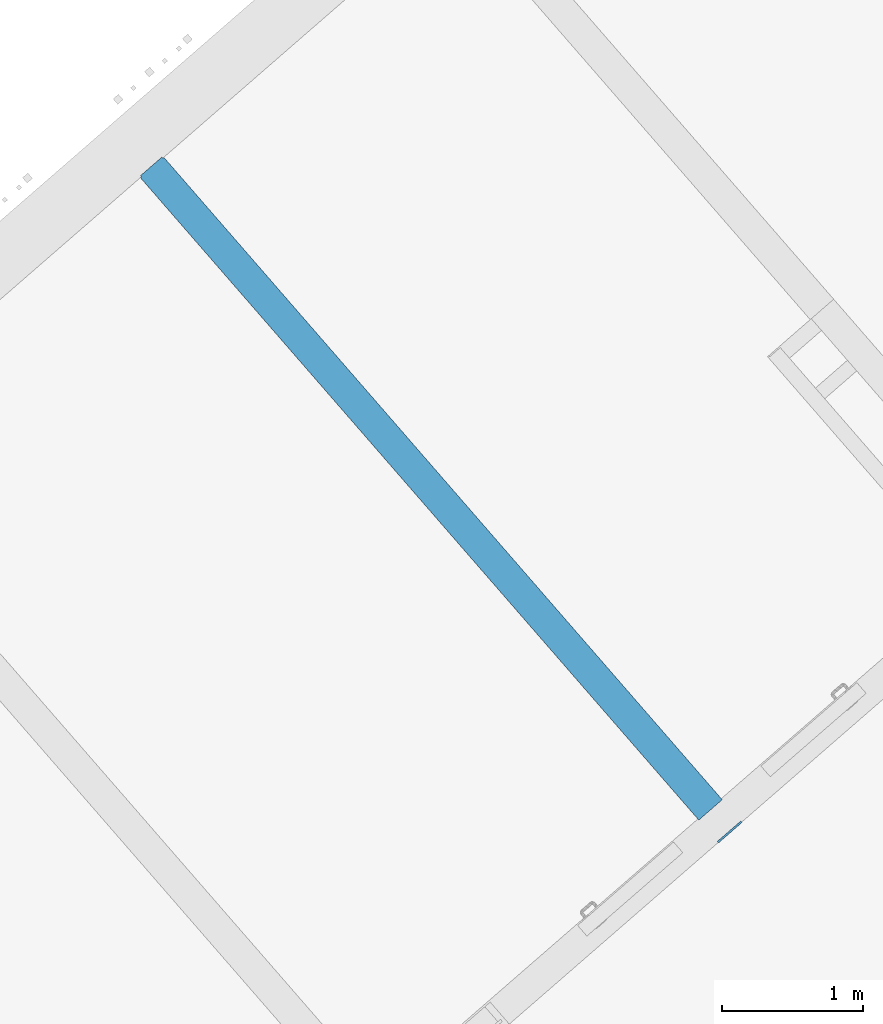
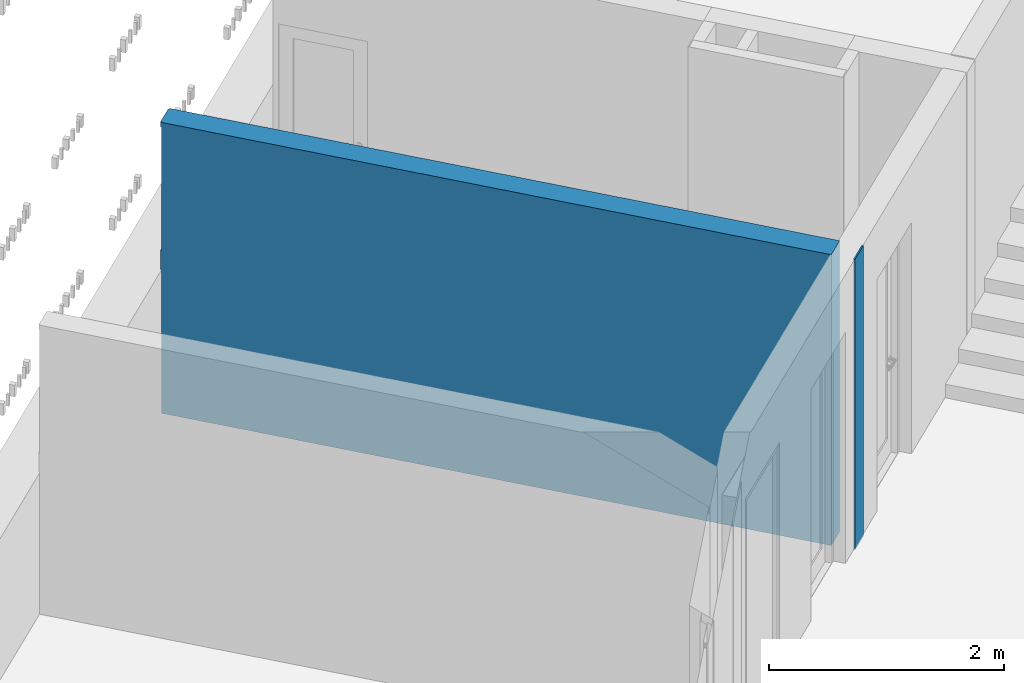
# One storey, part 52 of 124: 1 wall.
"""IFC2X3 building model written with IfcOpenShell, lengths in millimetres."""

from ifc_helpers import new_model, entity, si_unit, converted_unit, derived_unit, money_unit, direction, frame, origin_with_axes, place, context, subcontext, project, spatial, faceted_brep, material, material_list, type_object, element, save


model = new_model("IFC2X3")

# Units and contexts
model_context = context("Model", 3, precision=1e-05, world=origin_with_axes(), true_north=direction((0.0, 1.0)))
body_context = subcontext(model_context, "Body", "Model", "MODEL_VIEW")
ifc_project = project(units=[si_unit("LENGTHUNIT", "METRE", prefix="MILLI"), si_unit("AREAUNIT", "SQUARE_METRE"), si_unit("VOLUMEUNIT", "CUBIC_METRE"), converted_unit("PLANEANGLEUNIT", "DEGREE", entity("IfcPlaneAngleMeasure", 0.0174532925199), si_unit("PLANEANGLEUNIT", "RADIAN"), dimensions=[0, 0, 0, 0, 0, 0, 0]), si_unit("SOLIDANGLEUNIT", "STERADIAN"), money_unit("EUR"), converted_unit("TIMEUNIT", "Year", entity("IfcTimeMeasure", 31556926.0), si_unit("TIMEUNIT", "SECOND"), dimensions=[0, 0, 1, 0, 0, 0, 0]), si_unit("MASSUNIT", "GRAM", prefix="KILO"), si_unit("THERMODYNAMICTEMPERATUREUNIT", "DEGREE_CELSIUS"), si_unit("LUMINOUSINTENSITYUNIT", "LUMEN"), si_unit("ENERGYUNIT", "JOULE", prefix="MEGA"), derived_unit("THERMALCONDUCTANCEUNIT", [(si_unit("POWERUNIT", "WATT"), 1), (si_unit("LENGTHUNIT", "METRE"), -1), (si_unit("THERMODYNAMICTEMPERATUREUNIT", "KELVIN"), -1)]), derived_unit("SPECIFICHEATCAPACITYUNIT", [(si_unit("ENERGYUNIT", "JOULE"), 1), (si_unit("MASSUNIT", "GRAM", prefix="KILO"), -1), (si_unit("THERMODYNAMICTEMPERATUREUNIT", "KELVIN"), -1)]), derived_unit("MASSDENSITYUNIT", [(si_unit("MASSUNIT", "GRAM", prefix="KILO"), 1), (si_unit("VOLUMEUNIT", "CUBIC_METRE"), -1)])], contexts=[model_context])

# Site, building, storey
site_placement = place(None, origin_with_axes())
site = spatial("IfcSite", under=ifc_project, at=site_placement, Name="Site", CompositionType="ELEMENT")
building_placement = place(site_placement, origin_with_axes())
building = spatial("IfcBuilding", under=site, at=building_placement, Name="Building", CompositionType="ELEMENT")
storey_placement = place(building_placement, frame((0.0, 0.0, -1615.0), z_axis=(0.0, 0.0, 1.0), x_axis=(1.0, 0.0, 0.0)))
storey = spatial("IfcBuildingStorey", under=building, at=storey_placement, Name="0  korrus", CompositionType="ELEMENT", Elevation=-1615.0)

# Wall
ifc_material_1 = material(Name="Krohv - Lubjakivi")
ifc_material_2 = material(Name="Müüriplokk - Konstuktsioon")
ifc_material_list = material_list([ifc_material_1, ifc_material_1, ifc_material_2, ifc_material_2, ifc_material_1, ifc_material_1])
wall_type = type_object("IfcWallType", Name="SS-01", PredefinedType="NOTDEFINED")
wall_placement = place(storey_placement, frame((154230.366478, 95147.0823493, -20.0), z_axis=(0.0, 0.0, 1.0), x_axis=(-0.65605902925, 0.754709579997, 0.0)))
element("IfcWall", 1, at=wall_placement, inside=storey, type_object=wall_type, material=ifc_material_list, Name="SS-01", context=body_context, shape_type="Brep", body=[
    faceted_brep([(13.5628937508, -10.000000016, 0.0), (13.5628937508, -10.0, 3020.0), (0.0, -9.99999999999, 3020.0), (0.0, -9.99999999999, 0.0), (13.5628937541, 0.0, 3020.0), (13.5628937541, -2.13731254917e-08, 0.0), (0.0, 0.0, 3020.0), (0.0, 0.0, 0.0)], [[[0, 1, 2, 3]], [[4, 1, 0, 5]], [[1, 4, 6, 2]], [[7, 3, 2, 6]], [[5, 0, 3, 7]], [[4, 5, 7, 6]]]),
    faceted_brep([(6240.00583256, -9.99999055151, 2965.0), (6240.00583256, -10.0, 3020.0), (213.562893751, -10.0, 3019.99999996), (213.562893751, -10.0000002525, 0.0), (6240.0058324, -10.0000073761, 0.0), (6240.00583275, -10.0000073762, 1485.0), (6240.00583275, -9.99999475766, 1635.0), (6239.96516894, -9.99999055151, 1635.0), (6239.96516894, -9.99999055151, 2965.0), (6240.00583256, 0.0, 3020.0), (6240.00583256, -9.24558207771e-08, 2965.0), (213.562893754, 0.0, 3019.99999996), (213.562893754, -3.36598304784e-07, 0.0), (6240.0058324, -9.83484937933e-06, 0.0), (6240.00583276, -2.52805421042e-06, 1635.0), (6240.00583276, -9.83484937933e-06, 1485.0), (6239.96519158, -9.24558207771e-08, 1635.0), (6239.96519158, -9.24558207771e-08, 2965.0)], [[[0, 1, 2, 3, 4, 5, 6, 7, 8]], [[9, 1, 0, 10]], [[1, 9, 11, 2]], [[3, 2, 11, 12]], [[12, 13, 4, 3]], [[14, 6, 5, 4, 13, 15]], [[7, 6, 14, 16]], [[8, 7, 16, 17]], [[10, 0, 8, 17]], [[9, 10, 17, 16, 14, 15, 13, 12, 11]]]),
    faceted_brep([(13.5628936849, -210.000000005, 0.0), (13.5628936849, -210.0, 3020.0), (0.0, -210.0, 3020.0), (0.0, -210.0, 0.0), (13.5628937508, -10.0, 3020.0), (13.5628937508, -10.000000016, 0.0), (0.0, -9.99999999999, 3020.0), (0.0, -9.99999999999, 0.0)], [[[0, 1, 2, 3]], [[4, 1, 0, 5]], [[1, 4, 6, 2]], [[7, 3, 2, 6]], [[5, 0, 3, 7]], [[4, 5, 7, 6]]]),
    faceted_brep([(6250.00583498, -209.999990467, 2965.0), (6250.00583495, -210.0, 3020.0), (213.562893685, -210.0, 3019.99999996), (213.562893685, -210.000000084, 0.0), (6240.0058324, -210.000002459, 0.0), (6240.0058324, -210.000002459, 1485.0), (6250.0058327, -210.000002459, 1485.0), (6250.0058327, -209.999993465, 1635.0), (6249.96471608, -209.999990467, 1635.0), (6249.96471608, -209.999990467, 1685.00000054), (6240.0058324, -209.999990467, 1685.00000054), (6240.0058324, -209.999990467, 2965.0), (6250.005835, -9.99999999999, 3020.0), (6250.00583504, -9.99999055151, 2965.0), (213.562893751, -10.0, 3019.99999996), (213.562893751, -10.0000002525, 0.0), (6240.0058324, -10.0000073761, 0.0), (6240.0058324, -10.0000073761, 1485.0), (6250.00583275, -10.0000073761, 1485.0), (6250.00583275, -9.99999475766, 1635.0), (6249.96516894, -9.99999055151, 1635.0), (6249.96516894, -9.99999055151, 1685.00000054), (6240.0058324, -9.99999055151, 1685.00000054), (6240.0058324, -9.99999055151, 2965.0)], [[[0, 1, 2, 3, 4, 5, 6, 7, 8, 9, 10, 11]], [[12, 1, 0, 13]], [[1, 12, 14, 2]], [[3, 2, 14, 15]], [[15, 16, 4, 3]], [[17, 5, 4, 16]], [[18, 6, 5, 17]], [[19, 7, 6, 18]], [[8, 7, 19, 20]], [[21, 9, 8, 20]], [[9, 21, 22, 10]], [[23, 11, 10, 22]], [[13, 0, 11, 23]], [[12, 13, 23, 22, 21, 20, 19, 18, 17, 16, 15, 14]]]),
    faceted_brep([(13.5628936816, -220.0, 0.0), (13.5628936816, -220.0, 3020.0), (0.0, -220.0, 3020.0), (0.0, -220.0, 0.0), (13.5628936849, -210.0, 3020.0), (13.5628936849, -210.000000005, 0.0), (0.0, -210.0, 3020.0), (0.0, -210.0, 0.0)], [[[0, 1, 2, 3]], [[4, 1, 0, 5]], [[1, 4, 6, 2]], [[7, 3, 2, 6]], [[5, 0, 3, 7]], [[4, 5, 7, 6]]]),
    faceted_brep([(6240.00583251, -220.0, 2965.0), (6240.00583251, -220.0, 3020.0), (213.562893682, -220.0, 3019.99999996), (213.562893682, -220.0, 0.0), (6240.0058324, -220.0, 0.0), (6240.0058327, -220.0, 1485.0), (6240.0058327, -220.0, 1635.0), (6239.96469343, -220.0, 1635.0), (6239.96469343, -220.0, 2965.0), (6240.00583251, -210.0, 3020.0), (6240.00583251, -209.999990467, 2965.0), (213.562893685, -210.0, 3019.99999996), (213.562893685, -210.000000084, 0.0), (6240.0058324, -210.000002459, 0.0), (6240.0058327, -209.999993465, 1635.0), (6240.0058327, -210.000002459, 1485.0), (6239.96471608, -209.999990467, 1635.0), (6239.96471608, -209.999990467, 2965.0)], [[[0, 1, 2, 3, 4, 5, 6, 7, 8]], [[9, 1, 0, 10]], [[1, 9, 11, 2]], [[3, 2, 11, 12]], [[12, 13, 4, 3]], [[14, 6, 5, 4, 13, 15]], [[7, 6, 14, 16]], [[8, 7, 16, 17]], [[10, 0, 8, 17]], [[9, 10, 17, 16, 14, 15, 13, 12, 11]]]),
])

save(model, "model.ifc")
